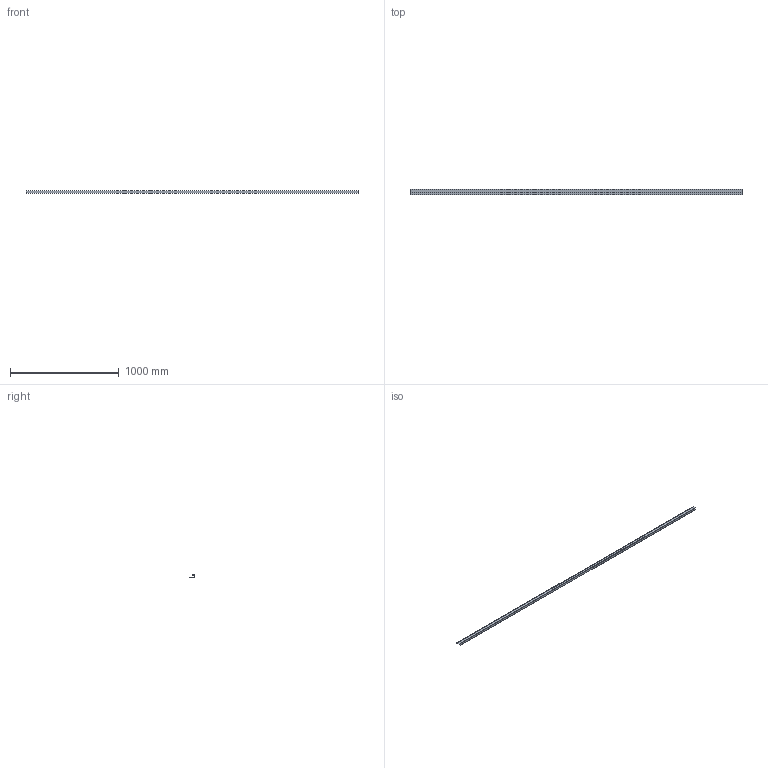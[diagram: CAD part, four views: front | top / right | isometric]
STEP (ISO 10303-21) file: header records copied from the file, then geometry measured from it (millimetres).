
FILE_DESCRIPTION(/* description */ (''),/* implementation_level */ '2;1');
FILE_NAME(/* name */ 'C:\Users\Utilisateur\Mac Metal\Site de communication - Documents\Ingénierie\Développement de produits\Board and Batten\Dessins\Moulures\M02H\M02H.stp',/* time_stamp */ '2022-06-29T17:46:14-04:00',/* author */ ('Utilisateur'),/* organization */ (''),/* preprocessor_version */ 'ST-DEVELOPER v18.1',/* originating_system */ 'Autodesk Inventor 2021',/* authorisation */ '');
FILE_SCHEMA (('AUTOMOTIVE_DESIGN { 1 0 10303 214 3 1 1 }'));
Length unit declared in the file: inch
Products named in the file (1): J-trim double (facade de 1po)
Bounding box: 3048 x 50.8 x 22.23 mm (x, y, z)
Volume: 215694 mm3; surface area: 851931.1 mm2
Topology: 1 solids, 1 shells, 22 faces, 60 edges, 40 vertices
Faces by surface type: plane 14, cylinder 8
Entity records: 743 total; most frequent: CARTESIAN_POINT 123, DIRECTION 122, ORIENTED_EDGE 120, EDGE_CURVE 60, LINE 44, VECTOR 44, VERTEX_POINT 40, AXIS2_PLACEMENT_3D 39
